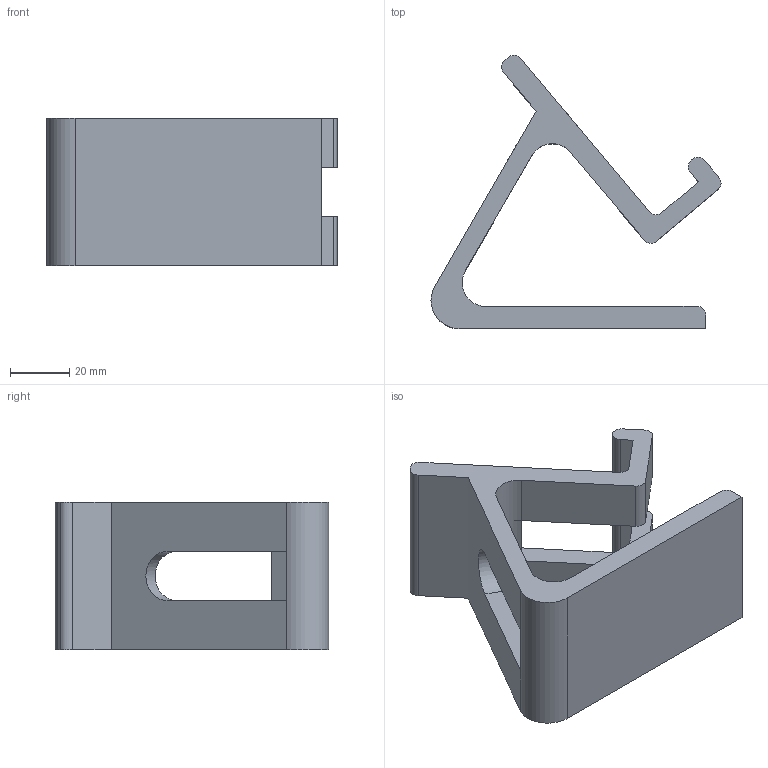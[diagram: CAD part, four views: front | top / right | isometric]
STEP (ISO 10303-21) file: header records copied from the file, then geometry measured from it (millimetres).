
FILE_DESCRIPTION(/* description */ (''),/* implementation_level */ '2;1');
FILE_NAME(/* name */ 'E:/3D_Models/Phone Stand/Phone_Stand.step',/* time_stamp */ '2022-09-03T20:32:36-05:00',/* author */ (''),/* organization */ (''),/* preprocessor_version */ 'ST-DEVELOPER v19',/* originating_system */ 'Autodesk Translation Framework v11.7.0.108',/* authorisation */ '');
FILE_SCHEMA (('AUTOMOTIVE_DESIGN { 1 0 10303 214 3 1 1 }'));
Length unit declared in the file: millimetre
Products named in the file (1): Phone Stand
Bounding box: 98.17 x 92.53 x 50 mm (x, y, z)
Volume: 84546 mm3; surface area: 29368.5 mm2
Topology: 1 solids, 1 shells, 49 faces, 139 edges, 90 vertices
Faces by surface type: plane 31, cylinder 18
Entity records: 1631 total; most frequent: CARTESIAN_POINT 279, ORIENTED_EDGE 278, DIRECTION 277, EDGE_CURVE 139, LINE 101, VECTOR 101, VERTEX_POINT 90, AXIS2_PLACEMENT_3D 88
